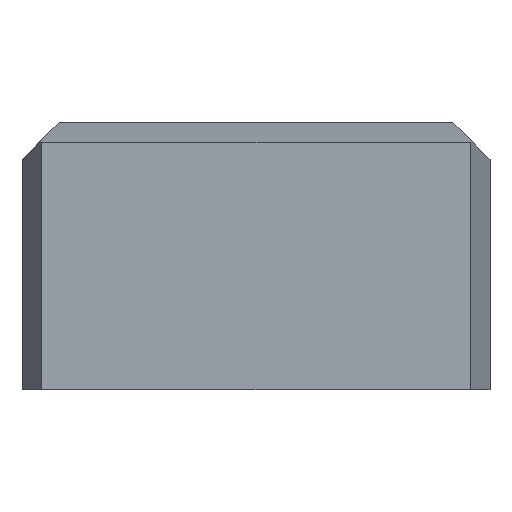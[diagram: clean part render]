
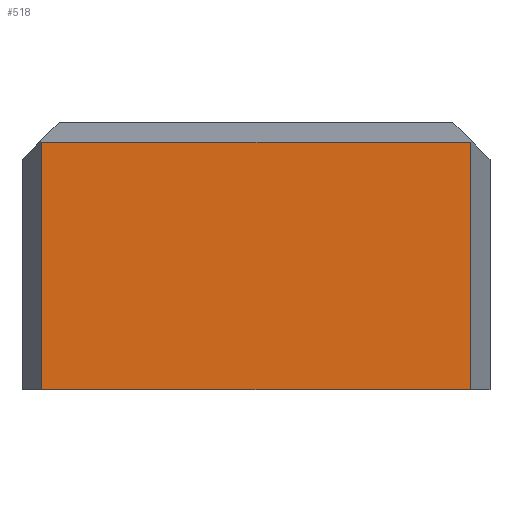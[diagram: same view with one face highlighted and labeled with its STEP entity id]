
A CAD part, front view. The second image highlights one B-rep face of the part: STEP entity #518.
In plain terms, the highlighted planar face has unit normal (0, -1, 0).
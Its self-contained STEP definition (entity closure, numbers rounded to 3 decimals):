
#98=CARTESIAN_POINT('Vertex',(28.821,0.,-36.)) ;
#101=CARTESIAN_POINT('Line Origine',(0.,0.,-36.)) ;
#105=CARTESIAN_POINT('Vertex',(-28.821,0.,-36.)) ;
#479=CARTESIAN_POINT('Vertex',(28.821,0.,-2.679)) ;
#482=CARTESIAN_POINT('Line Origine',(28.821,0.,-19.34)) ;
#495=CARTESIAN_POINT('Axis2P3D Location',(-28.821,0.,-36.)) ;
#500=CARTESIAN_POINT('Line Origine',(0.,0.,-2.679)) ;
#504=CARTESIAN_POINT('Vertex',(-28.821,0.,-2.679)) ;
#507=CARTESIAN_POINT('Line Origine',(-28.821,0.,-19.34)) ;
#102=DIRECTION('Vector Direction',(1.,0.,0.)) ;
#483=DIRECTION('Vector Direction',(0.,0.,1.)) ;
#496=DIRECTION('Axis2P3D Direction',(0.,-1.,0.)) ;
#497=DIRECTION('Axis2P3D XDirection',(0.,0.,-1.)) ;
#501=DIRECTION('Vector Direction',(-1.,0.,0.)) ;
#508=DIRECTION('Vector Direction',(0.,0.,1.)) ;
#498=AXIS2_PLACEMENT_3D('Plane Axis2P3D',#495,#496,#497) ;
#513=ORIENTED_EDGE('',*,*,#486,.T.) ;
#514=ORIENTED_EDGE('',*,*,#506,.T.) ;
#515=ORIENTED_EDGE('',*,*,#511,.F.) ;
#516=ORIENTED_EDGE('',*,*,#107,.T.) ;
#103=VECTOR('Line Direction',#102,1.) ;
#484=VECTOR('Line Direction',#483,1.) ;
#502=VECTOR('Line Direction',#501,1.) ;
#509=VECTOR('Line Direction',#508,1.) ;
#518=ADVANCED_FACE('A927-63X180X36',(#517),#499,.T.) ;
#107=EDGE_CURVE('',#106,#99,#104,.T.) ;
#486=EDGE_CURVE('',#99,#480,#485,.T.) ;
#506=EDGE_CURVE('',#480,#505,#503,.T.) ;
#511=EDGE_CURVE('',#106,#505,#510,.T.) ;
#512=EDGE_LOOP('',(#513,#514,#515,#516)) ;
#517=FACE_OUTER_BOUND('',#512,.T.) ;
#104=LINE('Line',#101,#103) ;
#485=LINE('Line',#482,#484) ;
#503=LINE('Line',#500,#502) ;
#510=LINE('Line',#507,#509) ;
#499=PLANE('Plane',#498) ;
#99=VERTEX_POINT('',#98) ;
#106=VERTEX_POINT('',#105) ;
#480=VERTEX_POINT('',#479) ;
#505=VERTEX_POINT('',#504) ;
